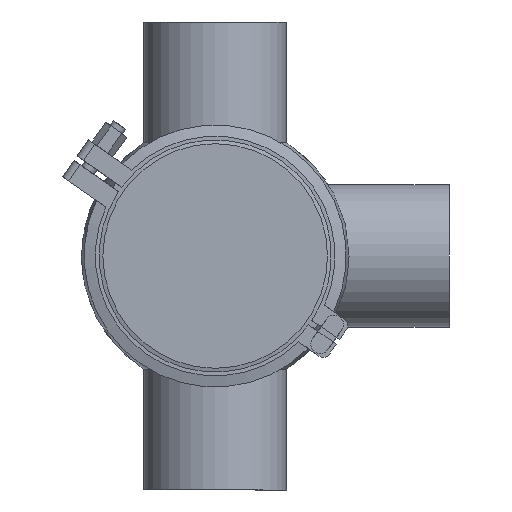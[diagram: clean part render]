
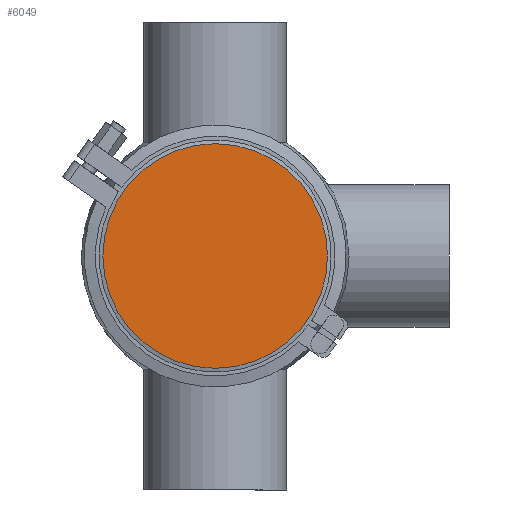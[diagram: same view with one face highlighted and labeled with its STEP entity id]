
A CAD part, front view. The second image highlights one B-rep face of the part: STEP entity #6049.
In plain terms, the highlighted planar face has unit normal (0, -1, 0).
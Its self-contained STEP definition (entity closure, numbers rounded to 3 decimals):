
#1744 = CARTESIAN_POINT ( 'NONE',  ( -60., 0., 0. ) ) ;
#3113 = DIRECTION ( 'NONE',  ( 0., 1., 0. ) ) ;
#3264 = DIRECTION ( 'NONE',  ( 0., 0., -1. ) ) ;
#3436 = CARTESIAN_POINT ( 'NONE',  ( 0., 0., 0. ) ) ;
#3541 = DIRECTION ( 'NONE',  ( 0., 0., 1. ) ) ;
#4099 = AXIS2_PLACEMENT_3D ( 'NONE', #3436, #3113, #3541 ) ;
#6049 = ADVANCED_FACE ( 'NONE', ( #7936 ), #21171, .T. ) ;
#7243 = CIRCLE ( 'NONE', #4099, 60. ) ;
#7407 = VERTEX_POINT ( 'NONE', #18671 ) ;
#7436 = ORIENTED_EDGE ( 'NONE', *, *, #12404, .F. ) ;
#7936 = FACE_OUTER_BOUND ( 'NONE', #9125, .T. ) ;
#9125 = EDGE_LOOP ( 'NONE', ( #7436 ) ) ;
#10962 = AXIS2_PLACEMENT_3D ( 'NONE', #1744, #17908, #3264 ) ;
#12404 = EDGE_CURVE ( 'NONE', #7407, #7407, #7243, .T. ) ;
#17908 = DIRECTION ( 'NONE',  ( 0., -1., 0. ) ) ;
#18671 = CARTESIAN_POINT ( 'NONE',  ( 0., 0., 60. ) ) ;
#21171 = PLANE ( 'NONE',  #10962 ) ;
